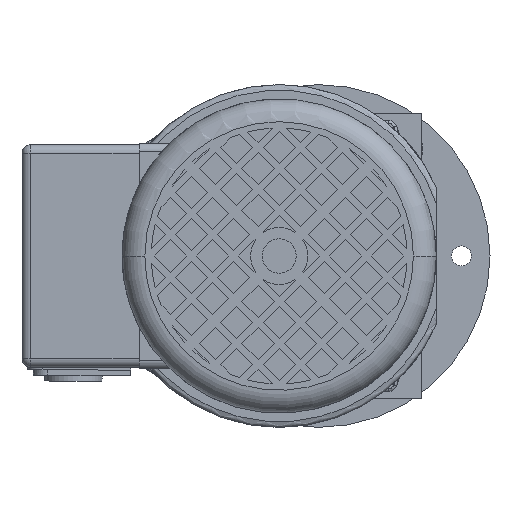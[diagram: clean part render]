
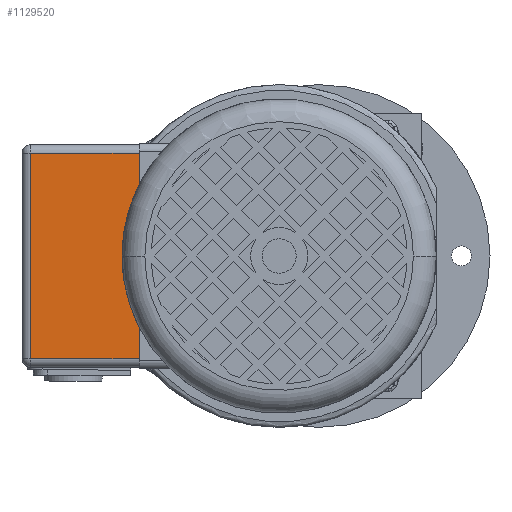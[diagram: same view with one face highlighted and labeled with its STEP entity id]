
A CAD part, left-side view. The second image highlights one B-rep face of the part: STEP entity #1129520.
In plain terms, the highlighted planar face has unit normal (-1, 0, 0) as drawn and (0, 0, -1) by its records, which use the part's own axes.
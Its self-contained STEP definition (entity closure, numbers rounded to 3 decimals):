
#1086620=CARTESIAN_POINT('',(87.,36.,-82.));
#1086630=VERTEX_POINT('',#1086620);
#1107570=CARTESIAN_POINT('',(49.,-36.,-82.));
#1107580=VERTEX_POINT('',#1107570);
#1107610=CARTESIAN_POINT('',(49.,0.,-82.));
#1107620=DIRECTION('',(0.,1.,0.));
#1107630=VECTOR('',#1107620,1.);
#1107640=LINE('',#1107610,#1107630);
#1107650=CARTESIAN_POINT('',(49.,36.,-82.));
#1107660=VERTEX_POINT('',#1107650);
#1107670=EDGE_CURVE('',#1107580,#1107660,#1107640,.T.);
#1129240=CARTESIAN_POINT('',(49.,0.,-82.));
#1129250=DIRECTION('',(0.,0.,-1.));
#1129260=DIRECTION('',(-1.,0.,0.));
#1129270=AXIS2_PLACEMENT_3D('',#1129240,#1129250,#1129260);
#1129280=PLANE('',#1129270);
#1129290=CARTESIAN_POINT('',(87.,0.,-82.));
#1129300=DIRECTION('',(0.,-1.,0.));
#1129310=VECTOR('',#1129300,1.);
#1129320=LINE('',#1129290,#1129310);
#1129330=CARTESIAN_POINT('',(87.,-36.,-82.));
#1129340=VERTEX_POINT('',#1129330);
#1129350=EDGE_CURVE('',#1086630,#1129340,#1129320,.T.);
#1129360=ORIENTED_EDGE('',*,*,#1129350,.T.);
#1129370=CARTESIAN_POINT('',(52.,36.,-82.));
#1129380=DIRECTION('',(1.,0.,0.));
#1129390=VECTOR('',#1129380,1.);
#1129400=LINE('',#1129370,#1129390);
#1129410=EDGE_CURVE('',#1107660,#1086630,#1129400,.T.);
#1129420=ORIENTED_EDGE('',*,*,#1129410,.T.);
#1129430=ORIENTED_EDGE('',*,*,#1107670,.T.);
#1129440=CARTESIAN_POINT('',(52.,-36.,-82.));
#1129450=DIRECTION('',(1.,0.,0.));
#1129460=VECTOR('',#1129450,1.);
#1129470=LINE('',#1129440,#1129460);
#1129480=EDGE_CURVE('',#1107580,#1129340,#1129470,.T.);
#1129490=ORIENTED_EDGE('',*,*,#1129480,.F.);
#1129500=EDGE_LOOP('',(#1129490,#1129430,#1129420,#1129360));
#1129510=FACE_OUTER_BOUND('',#1129500,.T.);
#1129520=ADVANCED_FACE('',(#1129510),#1129280,.T.);
